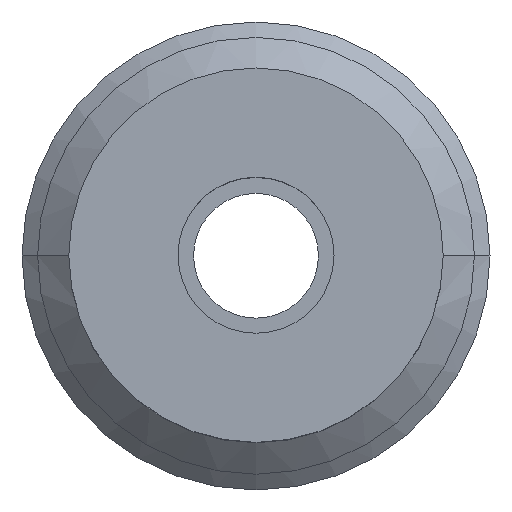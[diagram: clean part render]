
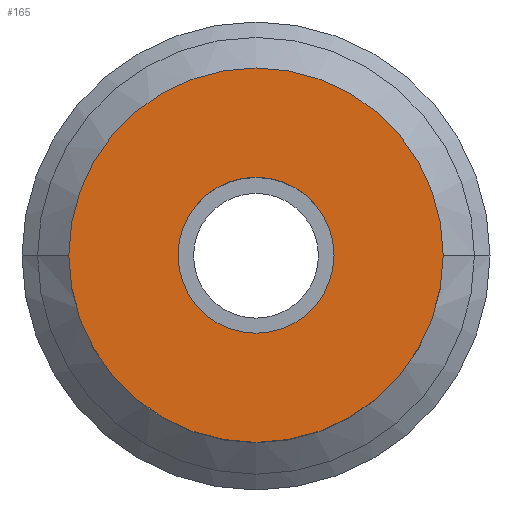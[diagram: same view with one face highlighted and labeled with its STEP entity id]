
A CAD part, top view. The second image highlights one B-rep face of the part: STEP entity #165.
In plain terms, the highlighted planar face has unit normal (0, 0, 1).
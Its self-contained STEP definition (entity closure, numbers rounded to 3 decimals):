
#87 = VERTEX_POINT ( 'NONE', #520 ) ;
#89 = FACE_OUTER_BOUND ( 'NONE', #563, .T. ) ;
#113 = DIRECTION ( 'NONE',  ( 0., 0., 1. ) ) ;
#139 = ORIENTED_EDGE ( 'NONE', *, *, #330, .T. ) ;
#165 = ADVANCED_FACE ( 'NONE', ( #89, #348 ), #172, .F. ) ;
#172 = PLANE ( 'NONE',  #365 ) ;
#182 = VERTEX_POINT ( 'NONE', #203 ) ;
#203 = CARTESIAN_POINT ( 'NONE',  ( 6., 0., 0. ) ) ;
#204 = CARTESIAN_POINT ( 'NONE',  ( 2.5, 0., 0. ) ) ;
#245 = DIRECTION ( 'NONE',  ( 1., 0., 0. ) ) ;
#268 = CIRCLE ( 'NONE', #449, 6. ) ;
#269 = VERTEX_POINT ( 'NONE', #384 ) ;
#275 = DIRECTION ( 'NONE',  ( 0., 0., 1. ) ) ;
#300 = ORIENTED_EDGE ( 'NONE', *, *, #476, .F. ) ;
#304 = CARTESIAN_POINT ( 'NONE',  ( 0., 0., 0. ) ) ;
#321 = DIRECTION ( 'NONE',  ( 1., 0., 0. ) ) ;
#330 = EDGE_CURVE ( 'NONE', #182, #87, #268, .T. ) ;
#339 = AXIS2_PLACEMENT_3D ( 'NONE', #647, #583, #645 ) ;
#348 = FACE_BOUND ( 'NONE', #510, .T. ) ;
#355 = DIRECTION ( 'NONE',  ( 0., 0., 1. ) ) ;
#365 = AXIS2_PLACEMENT_3D ( 'NONE', #463, #522, #403 ) ;
#384 = CARTESIAN_POINT ( 'NONE',  ( -2.5, 0., 0. ) ) ;
#388 = EDGE_CURVE ( 'NONE', #416, #269, #395, .T. ) ;
#395 = CIRCLE ( 'NONE', #659, 2.5 ) ;
#403 = DIRECTION ( 'NONE',  ( -1., 0., 0. ) ) ;
#416 = VERTEX_POINT ( 'NONE', #204 ) ;
#438 = ORIENTED_EDGE ( 'NONE', *, *, #595, .T. ) ;
#449 = AXIS2_PLACEMENT_3D ( 'NONE', #304, #113, #321 ) ;
#450 = CARTESIAN_POINT ( 'NONE',  ( 0., 0., 0. ) ) ;
#453 = CIRCLE ( 'NONE', #339, 2.5 ) ;
#463 = CARTESIAN_POINT ( 'NONE',  ( 0., 0., 0. ) ) ;
#476 = EDGE_CURVE ( 'NONE', #269, #416, #453, .T. ) ;
#510 = EDGE_LOOP ( 'NONE', ( #575, #300 ) ) ;
#520 = CARTESIAN_POINT ( 'NONE',  ( -6., 0., 0. ) ) ;
#522 = DIRECTION ( 'NONE',  ( 0., 0., -1. ) ) ;
#563 = EDGE_LOOP ( 'NONE', ( #139, #438 ) ) ;
#575 = ORIENTED_EDGE ( 'NONE', *, *, #388, .F. ) ;
#578 = DIRECTION ( 'NONE',  ( 1., 0., 0. ) ) ;
#583 = DIRECTION ( 'NONE',  ( 0., 0., 1. ) ) ;
#595 = EDGE_CURVE ( 'NONE', #87, #182, #677, .T. ) ;
#614 = CARTESIAN_POINT ( 'NONE',  ( 0., 0., 0. ) ) ;
#645 = DIRECTION ( 'NONE',  ( 1., 0., 0. ) ) ;
#647 = CARTESIAN_POINT ( 'NONE',  ( 0., 0., 0. ) ) ;
#648 = AXIS2_PLACEMENT_3D ( 'NONE', #450, #275, #578 ) ;
#659 = AXIS2_PLACEMENT_3D ( 'NONE', #614, #355, #245 ) ;
#677 = CIRCLE ( 'NONE', #648, 6. ) ;
